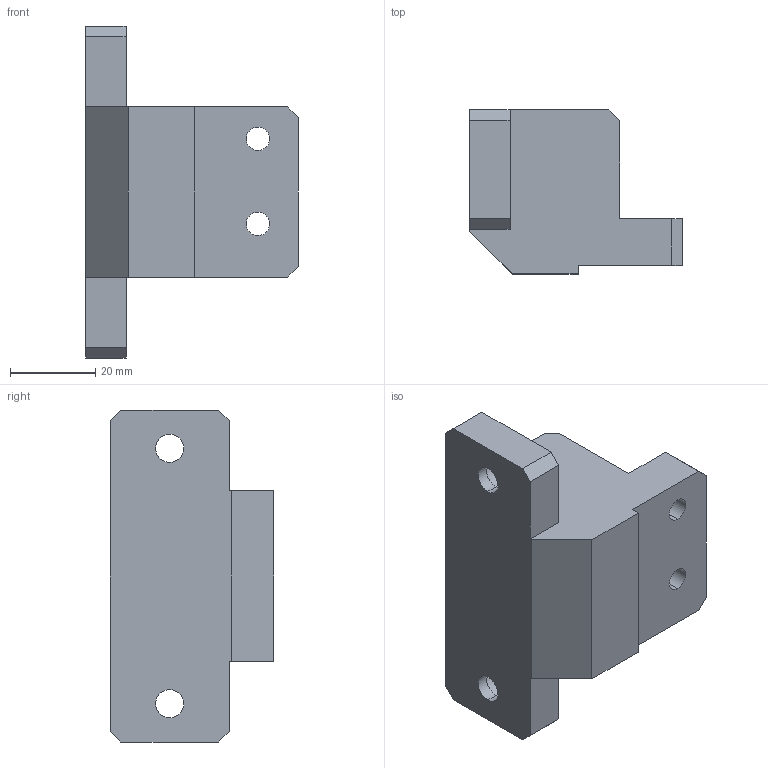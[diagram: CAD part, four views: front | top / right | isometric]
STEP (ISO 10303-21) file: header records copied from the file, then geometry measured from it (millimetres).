
FILE_DESCRIPTION (( 'STEP AP214' ), '1' );
FILE_NAME ('GZ28.03_V1嘐隅釱.STEP', '2021-04-11T14:26:04', ( 'hp' ), ( '' ), 'SwSTEP 2.0', 'SolidWorks 2017', '' );
FILE_SCHEMA (( 'AUTOMOTIVE_DESIGN' ));
Length unit declared in the file: millimetre
Products named in the file (1): GZ28.03_V1嘐隅釱
Bounding box: 50 x 38.5 x 78 mm (x, y, z)
Volume: 65790.6 mm3; surface area: 13135.4 mm2
Topology: 1 solids, 1 shells, 38 faces, 102 edges, 68 vertices
Faces by surface type: plane 26, cylinder 12
Entity records: 1240 total; most frequent: CARTESIAN_POINT 209, DIRECTION 204, ORIENTED_EDGE 204, EDGE_CURVE 102, VECTOR 78, LINE 78, VERTEX_POINT 68, AXIS2_PLACEMENT_3D 63
